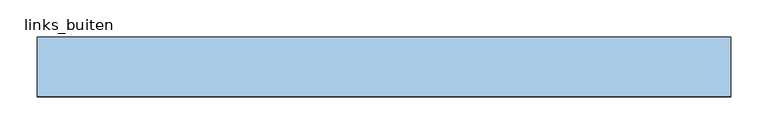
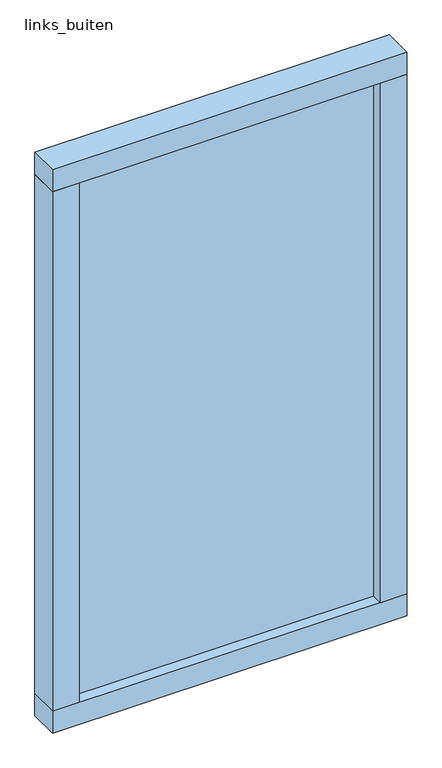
"""IFC4 building model written with IfcOpenShell, lengths in millimetres: window geometry, RBS_3-_WI_raam_paneel_SH : links_buiten."""

from ifc_helpers import new_model, si_unit, frame, origin, origin_with_axes, place, context, project, spatial, polyline, outline, extrude, source, transform, mapped, element, save


def links_buiten_6e9700f6(model_context):
    return source(origin(), model_context, "Body", "SweptSolid", [
        extrude(outline(polyline([(465.0, 40.0), (465.0, -40.0), (-465.0, -40.0), (-465.0, 40.0), (465.0, 40.0)])), frame((0.0, 0.0, 1500.0), z_axis=(0.0, 0.0, 1.0), x_axis=(1.0, 0.0, 0.0)), (0.0, 0.0, 1.0), 60.0),
        extrude(outline(polyline([(395.0, 40.0), (465.0, 40.0), (465.0, -40.0), (395.0, -40.0), (395.0, 40.0)])), frame((0.0, 0.0, 60.0), z_axis=(0.0, 0.0, 1.0), x_axis=(1.0, 0.0, 0.0)), (0.0, 0.0, 1.0), 1440.0),
        extrude(outline(polyline([(465.0, 40.0), (465.0, -40.0), (-465.0, -40.0), (-465.0, 40.0), (465.0, 40.0)])), origin_with_axes(), (0.0, 0.0, 1.0), 60.0),
        extrude(outline(polyline([(-395.0, 40.0), (-395.0, -40.0), (-465.0, -40.0), (-465.0, 40.0), (-395.0, 40.0)])), frame((0.0, 0.0, 60.0), z_axis=(0.0, 0.0, 1.0), x_axis=(1.0, 0.0, 0.0)), (0.0, 0.0, 1.0), 1440.0),
        extrude(outline(polyline([(395.0, -10.0), (-395.0, -10.0), (-395.0, 10.0), (395.0, 10.0), (395.0, -10.0)])), frame((0.0, 0.0, 60.0), z_axis=(0.0, 0.0, 1.0), x_axis=(1.0, 0.0, 0.0)), (0.0, 0.0, 1.0), 1440.0),
    ])


if __name__ == "__main__":
    model = new_model("IFC4")
    model_context = context("Model", 3, world=origin())
    ifc_project = project(units=[si_unit("LENGTHUNIT", "METRE", prefix="MILLI")], contexts=[model_context])
    site = spatial("IfcSite", under=ifc_project)
    building = spatial("IfcBuilding", under=site)
    placement = place(None, origin())
    links_buiten_shape = links_buiten_6e9700f6(model_context)
    element("IfcWindow", 1, ObjectType="RBS_3-_WI_raam_paneel_SH : links_buiten", at=placement, inside=building, context=model_context, shape_type="MappedRepresentation", body=[
        mapped(links_buiten_shape, transform((0.0, 0.0, 0.0), x_axis=(1.0, 0.0, 0.0), y_axis=(0.0, 1.0, 0.0), z_axis=(0.0, 0.0, 1.0))),
    ])
    save(model, "model.ifc")
